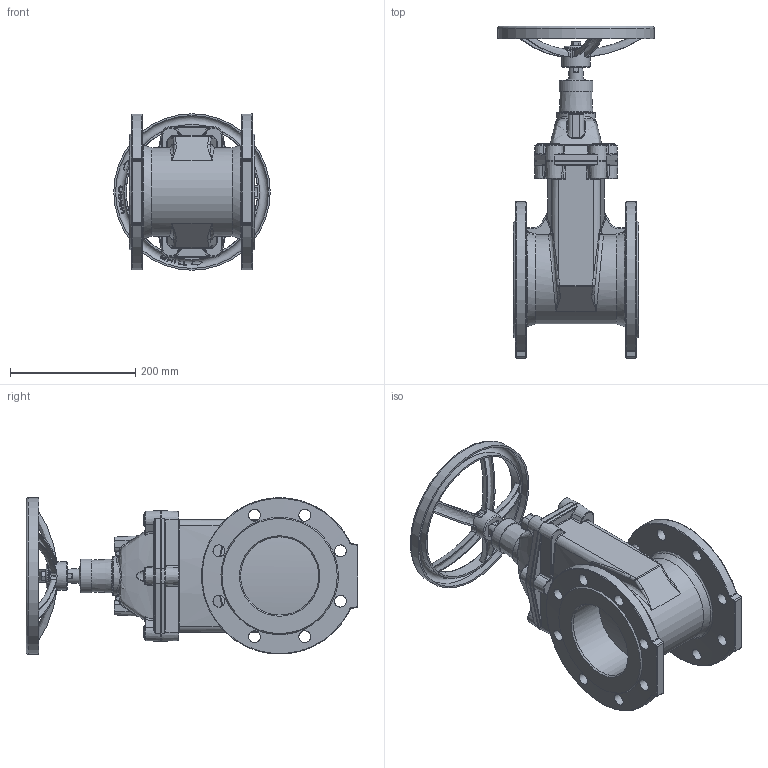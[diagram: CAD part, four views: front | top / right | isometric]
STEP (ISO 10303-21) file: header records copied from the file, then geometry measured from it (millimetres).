
FILE_DESCRIPTION (( 'STEP AP203' ), '1' );
FILE_NAME ('20.DN125.STEP', '2013-01-17T09:24:38', ( 'luca.saino' ), ( 'Hewlett-Packard Company' ), 'SwSTEP 2.0', 'SolidWorks 2012', '' );
FILE_SCHEMA (( 'CONFIG_CONTROL_DESIGN' ));
Length unit declared in the file: millimetre
Products named in the file (1): 20.DN125
Bounding box: 250 x 530 x 250 mm (x, y, z)
Volume: 6334114.7 mm3; surface area: 618535.6 mm2
Topology: 1 solids, 27 shells, 1612 faces, 3931 edges, 2319 vertices
Faces by surface type: cylinder 479, plane 432, bspline 381, torus 202, cone 92, sphere 26
Full cylindrical faces by diameter (mm): 6 x2, 6.8 x1, 8 x1, 8.4 x1, 8.5 x8, 10 x12, 10.2 x6, 11 x1, 13 x6, 16 x7, 19 x16, 20 x6, 22.5 x6, 23.5 x2, 36 x1, 45 x1, 54 x1, 125 x2, 210 x1, 216 x1, 244 x1, 250 x1
Entity records: 84478 total; most frequent: CARTESIAN_POINT 51468, ORIENTED_EDGE 7212, DIRECTION 6164, EDGE_CURVE 3606, AXIS2_PLACEMENT_3D 2469, VERTEX_POINT 2220, EDGE_LOOP 1850, FACE_OUTER_BOUND 1713
